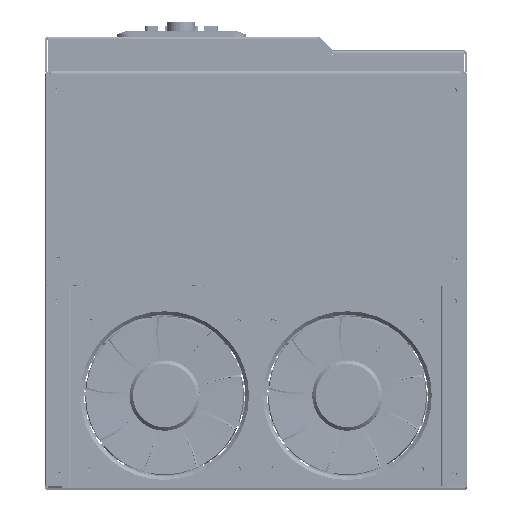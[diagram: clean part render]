
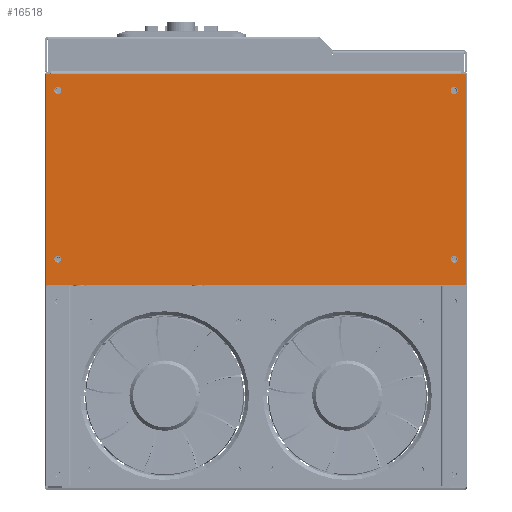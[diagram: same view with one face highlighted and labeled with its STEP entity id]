
A CAD part, top view. The second image highlights one B-rep face of the part: STEP entity #16518.
In plain terms, the highlighted planar face has unit normal (0, 0, 1) as drawn and (0, -1, 0) by its records, which use the part's own axes.
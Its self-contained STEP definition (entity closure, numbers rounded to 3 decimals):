
#16518=ADVANCED_FACE('',(#40453,#40455,#40457,#40459,#40461),#40463,.F.);
#40453=FACE_BOUND('',#40454,.T.);
#40454=EDGE_LOOP('',(#85297,#85298,#85299,#85300,#85301,#85302,#85303,#85304));
#40455=FACE_BOUND('',#40456,.T.);
#40456=EDGE_LOOP('',(#85305));
#40457=FACE_BOUND('',#40458,.T.);
#40458=EDGE_LOOP('',(#85306));
#40459=FACE_BOUND('',#40460,.T.);
#40460=EDGE_LOOP('',(#85307));
#40461=FACE_BOUND('',#40462,.T.);
#40462=EDGE_LOOP('',(#85308));
#40463=PLANE('',#40464);
#40464=AXIS2_PLACEMENT_3D('',#40465,#40466,#40467);
#40465=CARTESIAN_POINT('',(0.,0.,0.));
#40466=DIRECTION('',(0.,1.,0.));
#40467=DIRECTION('',(1.,0.,0.));
#85297=ORIENTED_EDGE('',*,*,#103883,.T.);
#85298=ORIENTED_EDGE('',*,*,#103884,.F.);
#85299=ORIENTED_EDGE('',*,*,#103885,.F.);
#85300=ORIENTED_EDGE('',*,*,#103886,.F.);
#85301=ORIENTED_EDGE('',*,*,#103887,.F.);
#85302=ORIENTED_EDGE('',*,*,#103888,.F.);
#85303=ORIENTED_EDGE('',*,*,#103889,.F.);
#85304=ORIENTED_EDGE('',*,*,#103890,.T.);
#85305=ORIENTED_EDGE('',*,*,#103891,.F.);
#85306=ORIENTED_EDGE('',*,*,#103892,.F.);
#85307=ORIENTED_EDGE('',*,*,#103893,.F.);
#85308=ORIENTED_EDGE('',*,*,#103894,.F.);
#103883=EDGE_CURVE('',#116591,#116592,#116593,.T.);
#103884=EDGE_CURVE('',#116594,#116592,#116595,.T.);
#103885=EDGE_CURVE('',#116596,#116594,#116597,.T.);
#103886=EDGE_CURVE('',#116598,#116596,#116599,.T.);
#103887=EDGE_CURVE('',#116600,#116598,#116601,.T.);
#103888=EDGE_CURVE('',#116602,#116600,#116603,.T.);
#103889=EDGE_CURVE('',#116604,#116602,#116605,.T.);
#103890=EDGE_CURVE('',#116604,#116591,#116606,.T.);
#103891=EDGE_CURVE('',#116607,#116607,#116608,.T.);
#103892=EDGE_CURVE('',#116609,#116609,#116610,.T.);
#103893=EDGE_CURVE('',#116611,#116611,#116612,.T.);
#103894=EDGE_CURVE('',#116613,#116613,#116614,.T.);
#116591=VERTEX_POINT('',#142701);
#116592=VERTEX_POINT('',#142702);
#116593=LINE('',#142703,#142704);
#116594=VERTEX_POINT('',#142706);
#116595=LINE('',#142707,#142708);
#116596=VERTEX_POINT('',#142710);
#116597=LINE('',#142711,#142712);
#116598=VERTEX_POINT('',#142714);
#116599=LINE('',#142715,#142716);
#116600=VERTEX_POINT('',#142718);
#116601=LINE('',#142719,#142720);
#116602=VERTEX_POINT('',#142722);
#116603=LINE('',#142723,#142724);
#116604=VERTEX_POINT('',#142726);
#116605=LINE('',#142727,#142728);
#116606=LINE('',#142730,#142731);
#116607=VERTEX_POINT('',#142733);
#116608=CIRCLE('',#142734,2.5);
#116609=VERTEX_POINT('',#142738);
#116610=CIRCLE('',#142739,2.5);
#116611=VERTEX_POINT('',#142743);
#116612=CIRCLE('',#142744,2.5);
#116613=VERTEX_POINT('',#142748);
#116614=CIRCLE('',#142749,2.5);
#142701=CARTESIAN_POINT('',(145.5,0.,-74.75));
#142702=CARTESIAN_POINT('',(145.5,0.,-75.));
#142703=CARTESIAN_POINT('',(145.5,0.,-74.75));
#142704=VECTOR('',#142705,1.);
#142705=DIRECTION('',(0.,0.,-1.));
#142706=CARTESIAN_POINT('',(149.5,0.,-75.));
#142707=CARTESIAN_POINT('',(149.5,0.,-75.));
#142708=VECTOR('',#142709,1.);
#142709=DIRECTION('',(-1.,0.,0.));
#142710=CARTESIAN_POINT('',(149.5,0.,75.));
#142711=CARTESIAN_POINT('',(149.5,0.,75.));
#142712=VECTOR('',#142713,1.);
#142713=DIRECTION('',(0.,0.,-1.));
#142714=CARTESIAN_POINT('',(-149.5,0.,75.));
#142715=CARTESIAN_POINT('',(-149.5,0.,75.));
#142716=VECTOR('',#142717,1.);
#142717=DIRECTION('',(1.,0.,0.));
#142718=CARTESIAN_POINT('',(-149.5,0.,-75.));
#142719=CARTESIAN_POINT('',(-149.5,0.,-75.));
#142720=VECTOR('',#142721,1.);
#142721=DIRECTION('',(0.,0.,1.));
#142722=CARTESIAN_POINT('',(-145.5,0.,-75.));
#142723=CARTESIAN_POINT('',(-145.5,0.,-75.));
#142724=VECTOR('',#142725,1.);
#142725=DIRECTION('',(-1.,0.,0.));
#142726=CARTESIAN_POINT('',(-145.5,0.,-74.75));
#142727=CARTESIAN_POINT('',(-145.5,0.,-74.75));
#142728=VECTOR('',#142729,1.);
#142729=DIRECTION('',(0.,0.,-1.));
#142730=CARTESIAN_POINT('',(-145.5,0.,-74.75));
#142731=VECTOR('',#142732,1.);
#142732=DIRECTION('',(1.,0.,0.));
#142733=CARTESIAN_POINT('',(-138.5,0.,57.));
#142734=AXIS2_PLACEMENT_3D('',#142735,#142736,#142737);
#142735=CARTESIAN_POINT('',(-141.,0.,57.));
#142736=DIRECTION('',(0.,-1.,0.));
#142737=DIRECTION('',(1.,0.,0.));
#142738=CARTESIAN_POINT('',(-138.5,0.,-63.));
#142739=AXIS2_PLACEMENT_3D('',#142740,#142741,#142742);
#142740=CARTESIAN_POINT('',(-141.,0.,-63.));
#142741=DIRECTION('',(0.,-1.,0.));
#142742=DIRECTION('',(1.,0.,0.));
#142743=CARTESIAN_POINT('',(143.5,0.,57.));
#142744=AXIS2_PLACEMENT_3D('',#142745,#142746,#142747);
#142745=CARTESIAN_POINT('',(141.,0.,57.));
#142746=DIRECTION('',(0.,-1.,0.));
#142747=DIRECTION('',(1.,0.,0.));
#142748=CARTESIAN_POINT('',(143.5,0.,-63.));
#142749=AXIS2_PLACEMENT_3D('',#142750,#142751,#142752);
#142750=CARTESIAN_POINT('',(141.,0.,-63.));
#142751=DIRECTION('',(0.,-1.,0.));
#142752=DIRECTION('',(1.,0.,0.));
